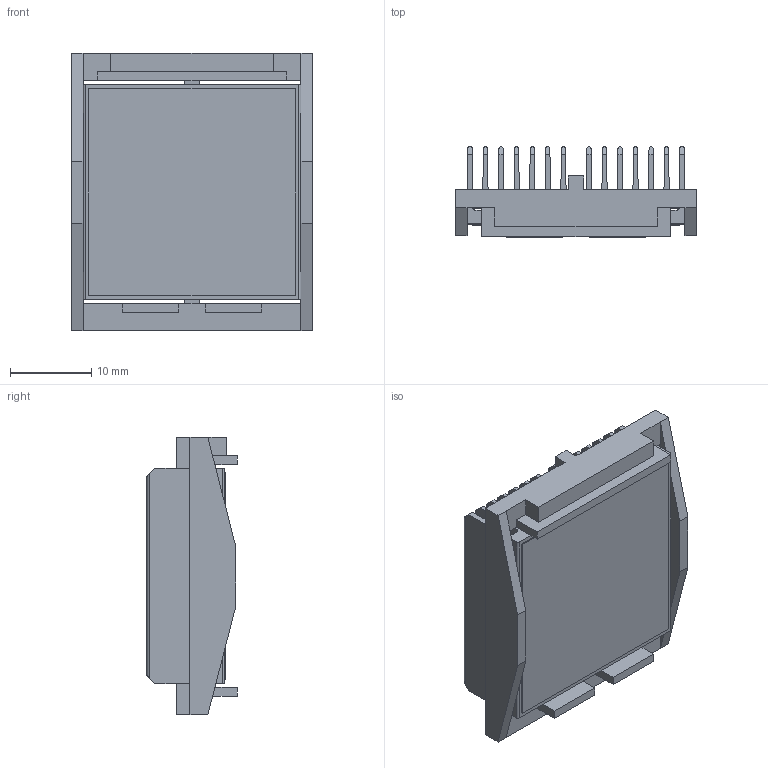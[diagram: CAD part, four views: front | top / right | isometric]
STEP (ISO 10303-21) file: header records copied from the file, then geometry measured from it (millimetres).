
FILE_DESCRIPTION (( 'STEP AP214' ), '1' );
FILE_NAME ('INL27001-10-1.7BU.STEP', '2023-02-21T21:33:56', ( '' ), ( '' ), 'SwSTEP 2.0', 'SolidWorks 2020', '' );
FILE_SCHEMA (( 'AUTOMOTIVE_DESIGN' ));
Length unit declared in the file: millimetre
Products named in the file (1): INL27001-10-1.7BU
Bounding box: 29.6 x 11.1 x 34.1 mm (x, y, z)
Volume: 4246.5 mm3; surface area: 10483.5 mm2
Topology: 3 solids, 3 shells, 168 faces, 488 edges, 324 vertices
Faces by surface type: plane 126, cylinder 42
Entity records: 7380 total; most frequent: CARTESIAN_POINT 1065, ORIENTED_EDGE 976, DIRECTION 854, EDGE_CURVE 488, VECTOR 404, LINE 404, VERTEX_POINT 324, AXIS2_PLACEMENT_3D 225
